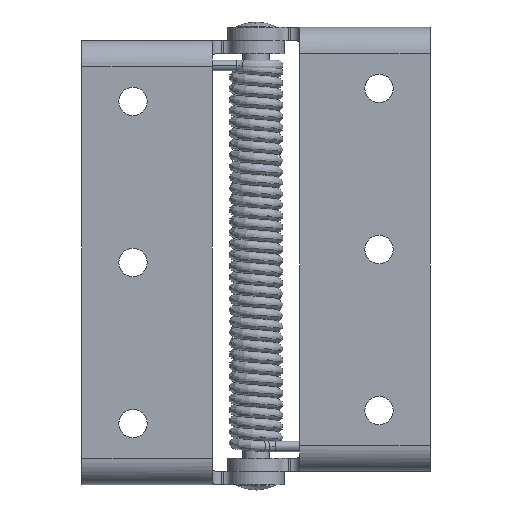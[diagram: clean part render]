
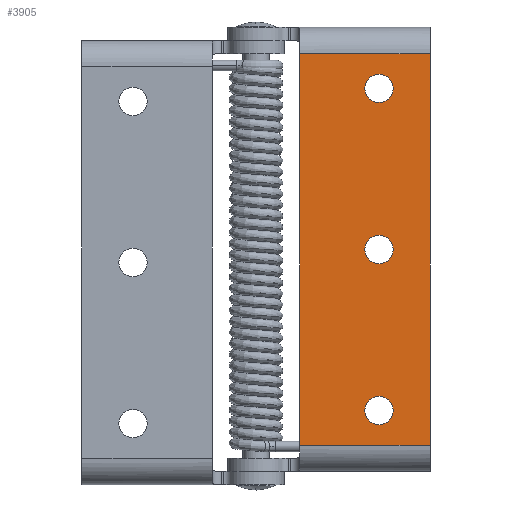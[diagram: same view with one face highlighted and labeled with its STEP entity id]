
A CAD part, front view. The second image highlights one B-rep face of the part: STEP entity #3905.
In plain terms, the highlighted planar face has unit normal (0, -1, 0).
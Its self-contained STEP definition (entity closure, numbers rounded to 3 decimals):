
#35 = CARTESIAN_POINT ( 'NONE',  ( 40., 0., 45. ) ) ;
#62 = LINE ( 'NONE', #35, #3422 ) ;
#136 = ORIENTED_EDGE ( 'NONE', *, *, #3187, .T. ) ;
#142 = CARTESIAN_POINT ( 'NONE',  ( 28.25, 0., 37. ) ) ;
#336 = CIRCLE ( 'NONE', #6293, 3.25 ) ;
#347 = ORIENTED_EDGE ( 'NONE', *, *, #2413, .T. ) ;
#358 = EDGE_LOOP ( 'NONE', ( #1287, #2843, #1695, #5070 ) ) ;
#409 = VECTOR ( 'NONE', #4537, 1000. ) ;
#467 = CARTESIAN_POINT ( 'NONE',  ( 10., 0., -45. ) ) ;
#556 = DIRECTION ( 'NONE',  ( 0., 1., 0. ) ) ;
#818 = DIRECTION ( 'NONE',  ( 0., 0., 1. ) ) ;
#1182 = CARTESIAN_POINT ( 'NONE',  ( 28.25, 0., 0. ) ) ;
#1287 = ORIENTED_EDGE ( 'NONE', *, *, #3555, .F. ) ;
#1348 = CARTESIAN_POINT ( 'NONE',  ( 40., 0., 45. ) ) ;
#1524 = CARTESIAN_POINT ( 'NONE',  ( 28.25, 0., -37. ) ) ;
#1695 = ORIENTED_EDGE ( 'NONE', *, *, #8072, .F. ) ;
#1741 = CARTESIAN_POINT ( 'NONE',  ( 28.25, 0., 33.75 ) ) ;
#1852 = DIRECTION ( 'NONE',  ( 0., 0., 1. ) ) ;
#1996 = DIRECTION ( 'NONE',  ( 1., 0., 0. ) ) ;
#2080 = CARTESIAN_POINT ( 'NONE',  ( 0., 0., 0. ) ) ;
#2104 = DIRECTION ( 'NONE',  ( 0., 0., 1. ) ) ;
#2122 = CARTESIAN_POINT ( 'NONE',  ( 10., 0., 45. ) ) ;
#2149 = ORIENTED_EDGE ( 'NONE', *, *, #2639, .T. ) ;
#2187 = DIRECTION ( 'NONE',  ( 0., 0., 1. ) ) ;
#2413 = EDGE_CURVE ( 'NONE', #8665, #5351, #6690, .T. ) ;
#2467 = AXIS2_PLACEMENT_3D ( 'NONE', #1524, #6220, #2187 ) ;
#2504 = CARTESIAN_POINT ( 'NONE',  ( 28.25, 0., 0. ) ) ;
#2582 = ORIENTED_EDGE ( 'NONE', *, *, #7109, .T. ) ;
#2639 = EDGE_CURVE ( 'NONE', #5320, #3616, #8273, .T. ) ;
#2642 = VECTOR ( 'NONE', #6840, 1000. ) ;
#2744 = CARTESIAN_POINT ( 'NONE',  ( 28.25, 0., 37. ) ) ;
#2842 = CIRCLE ( 'NONE', #4718, 3.25 ) ;
#2843 = ORIENTED_EDGE ( 'NONE', *, *, #7703, .F. ) ;
#2980 = FACE_BOUND ( 'NONE', #6637, .T. ) ;
#3172 = CARTESIAN_POINT ( 'NONE',  ( 40., 0., -45. ) ) ;
#3180 = DIRECTION ( 'NONE',  ( 0., 0., 1. ) ) ;
#3187 = EDGE_CURVE ( 'NONE', #7429, #4125, #7851, .T. ) ;
#3422 = VECTOR ( 'NONE', #4737, 1000. ) ;
#3434 = DIRECTION ( 'NONE',  ( 0., 0., 1. ) ) ;
#3480 = CARTESIAN_POINT ( 'NONE',  ( 40., 0., 45. ) ) ;
#3555 = EDGE_CURVE ( 'NONE', #4168, #7603, #62, .T. ) ;
#3616 = VERTEX_POINT ( 'NONE', #6092 ) ;
#3905 = ADVANCED_FACE ( 'NONE', ( #8371, #8169, #2980, #4991 ), #8101, .F. ) ;
#4125 = VERTEX_POINT ( 'NONE', #4809 ) ;
#4149 = ORIENTED_EDGE ( 'NONE', *, *, #7431, .T. ) ;
#4168 = VERTEX_POINT ( 'NONE', #3480 ) ;
#4189 = EDGE_LOOP ( 'NONE', ( #5523, #347 ) ) ;
#4459 = CARTESIAN_POINT ( 'NONE',  ( 10., 0., 45. ) ) ;
#4537 = DIRECTION ( 'NONE',  ( -1., 0., 0. ) ) ;
#4587 = CARTESIAN_POINT ( 'NONE',  ( 28.25, 0., -37. ) ) ;
#4689 = CARTESIAN_POINT ( 'NONE',  ( 28.25, 0., -40.25 ) ) ;
#4718 = AXIS2_PLACEMENT_3D ( 'NONE', #2744, #7464, #3434 ) ;
#4737 = DIRECTION ( 'NONE',  ( 0., 0., -1. ) ) ;
#4809 = CARTESIAN_POINT ( 'NONE',  ( 28.25, 0., -3.25 ) ) ;
#4836 = EDGE_CURVE ( 'NONE', #7603, #7098, #7356, .T. ) ;
#4845 = DIRECTION ( 'NONE',  ( 0., 1., 0. ) ) ;
#4991 = FACE_OUTER_BOUND ( 'NONE', #358, .T. ) ;
#5070 = ORIENTED_EDGE ( 'NONE', *, *, #4836, .F. ) ;
#5134 = AXIS2_PLACEMENT_3D ( 'NONE', #2080, #6141, #2104 ) ;
#5264 = DIRECTION ( 'NONE',  ( 0., 0., 1. ) ) ;
#5320 = VERTEX_POINT ( 'NONE', #4689 ) ;
#5351 = VERTEX_POINT ( 'NONE', #5375 ) ;
#5375 = CARTESIAN_POINT ( 'NONE',  ( 28.25, 0., 40.25 ) ) ;
#5523 = ORIENTED_EDGE ( 'NONE', *, *, #7963, .T. ) ;
#5727 = EDGE_LOOP ( 'NONE', ( #4149, #2149 ) ) ;
#5883 = DIRECTION ( 'NONE',  ( 0., 1., 0. ) ) ;
#6019 = LINE ( 'NONE', #2122, #2642 ) ;
#6089 = AXIS2_PLACEMENT_3D ( 'NONE', #142, #4845, #818 ) ;
#6092 = CARTESIAN_POINT ( 'NONE',  ( 28.25, 0., -33.75 ) ) ;
#6141 = DIRECTION ( 'NONE',  ( 0., 1., 0. ) ) ;
#6220 = DIRECTION ( 'NONE',  ( 0., 1., 0. ) ) ;
#6293 = AXIS2_PLACEMENT_3D ( 'NONE', #4587, #556, #5264 ) ;
#6637 = EDGE_LOOP ( 'NONE', ( #136, #2582 ) ) ;
#6690 = CIRCLE ( 'NONE', #6089, 3.25 ) ;
#6700 = CARTESIAN_POINT ( 'NONE',  ( 40., 0., -45. ) ) ;
#6840 = DIRECTION ( 'NONE',  ( 0., 0., 1. ) ) ;
#6855 = LINE ( 'NONE', #1348, #8441 ) ;
#6906 = VERTEX_POINT ( 'NONE', #4459 ) ;
#6964 = AXIS2_PLACEMENT_3D ( 'NONE', #2504, #7229, #3180 ) ;
#7098 = VERTEX_POINT ( 'NONE', #467 ) ;
#7109 = EDGE_CURVE ( 'NONE', #4125, #7429, #7916, .T. ) ;
#7229 = DIRECTION ( 'NONE',  ( 0., 1., 0. ) ) ;
#7263 = CARTESIAN_POINT ( 'NONE',  ( 28.25, 0., 3.25 ) ) ;
#7356 = LINE ( 'NONE', #3172, #409 ) ;
#7429 = VERTEX_POINT ( 'NONE', #7263 ) ;
#7431 = EDGE_CURVE ( 'NONE', #3616, #5320, #336, .T. ) ;
#7464 = DIRECTION ( 'NONE',  ( 0., 1., 0. ) ) ;
#7603 = VERTEX_POINT ( 'NONE', #6700 ) ;
#7703 = EDGE_CURVE ( 'NONE', #6906, #4168, #6855, .T. ) ;
#7778 = AXIS2_PLACEMENT_3D ( 'NONE', #1182, #5883, #1852 ) ;
#7851 = CIRCLE ( 'NONE', #7778, 3.25 ) ;
#7916 = CIRCLE ( 'NONE', #6964, 3.25 ) ;
#7963 = EDGE_CURVE ( 'NONE', #5351, #8665, #2842, .T. ) ;
#8072 = EDGE_CURVE ( 'NONE', #7098, #6906, #6019, .T. ) ;
#8101 = PLANE ( 'NONE',  #5134 ) ;
#8169 = FACE_BOUND ( 'NONE', #5727, .T. ) ;
#8273 = CIRCLE ( 'NONE', #2467, 3.25 ) ;
#8371 = FACE_BOUND ( 'NONE', #4189, .T. ) ;
#8441 = VECTOR ( 'NONE', #1996, 1000. ) ;
#8665 = VERTEX_POINT ( 'NONE', #1741 ) ;
